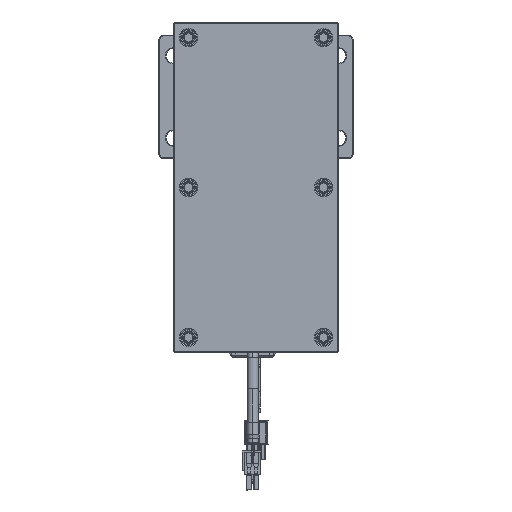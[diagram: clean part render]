
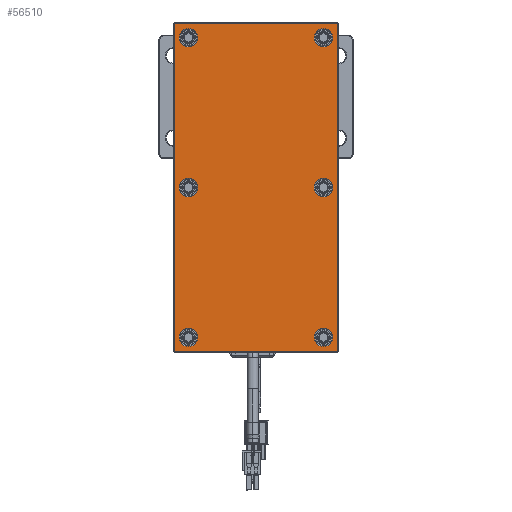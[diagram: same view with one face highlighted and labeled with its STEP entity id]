
A CAD part, front view. The second image highlights one B-rep face of the part: STEP entity #56510.
In plain terms, the highlighted planar face has unit normal (0, -1, 0).
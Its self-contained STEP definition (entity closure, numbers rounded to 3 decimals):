
#55127=CARTESIAN_POINT('',(99.,-7.,-49.));
#55128=DIRECTION('',(0.,-1.,0.));
#55129=DIRECTION('',(0.,0.,-1.));
#55130=AXIS2_PLACEMENT_3D('',#55127,#55128,#55129);
#55132=DIRECTION('',(1.,0.,0.));
#55133=VECTOR('',#55132,198.);
#55134=CARTESIAN_POINT('',(-99.,-7.,
-49.5));
#55135=LINE('',#55134,#55133);
#55136=CARTESIAN_POINT('',(-99.,-7.,-49.));
#55137=DIRECTION('',(0.,-1.,0.));
#55138=DIRECTION('',(-1.,0.,0.));
#55139=AXIS2_PLACEMENT_3D('',#55136,#55137,#55138);
#55141=DIRECTION('',(0.,0.,-1.));
#55142=VECTOR('',#55141,98.);
#55143=CARTESIAN_POINT('',(-99.5,-7.,
49.));
#55144=LINE('',#55143,#55142);
#55145=CARTESIAN_POINT('',(-99.,-7.,49.));
#55146=DIRECTION('',(0.,-1.,0.));
#55147=DIRECTION('',(0.,0.,1.));
#55148=AXIS2_PLACEMENT_3D('',#55145,#55146,#55147);
#55150=DIRECTION('',(-1.,0.,0.));
#55151=VECTOR('',#55150,198.);
#55152=CARTESIAN_POINT('',(99.,-7.,
49.5));
#55153=LINE('',#55152,#55151);
#55154=CARTESIAN_POINT('',(99.,-7.,49.));
#55155=DIRECTION('',(0.,-1.,0.));
#55156=DIRECTION('',(1.,0.,0.));
#55157=AXIS2_PLACEMENT_3D('',#55154,#55155,#55156);
#55159=DIRECTION('',(0.,0.,1.));
#55160=VECTOR('',#55159,98.);
#55161=CARTESIAN_POINT('',(99.5,-7.,
-49.));
#55162=LINE('',#55161,#55160);
#55163=CARTESIAN_POINT('',(-91.,-7.,-41.));
#55164=DIRECTION('',(0.,1.,0.));
#55165=DIRECTION('',(1.,0.,0.));
#55166=AXIS2_PLACEMENT_3D('',#55163,#55164,#55165);
#55168=CARTESIAN_POINT('',(-91.,-7.,-41.));
#55169=DIRECTION('',(0.,1.,0.));
#55170=DIRECTION('',(-1.,0.,0.));
#55171=AXIS2_PLACEMENT_3D('',#55168,#55169,#55170);
#55173=CARTESIAN_POINT('',(0.,-7.,-41.));
#55174=DIRECTION('',(0.,1.,0.));
#55175=DIRECTION('',(1.,0.,0.));
#55176=AXIS2_PLACEMENT_3D('',#55173,#55174,#55175);
#55178=CARTESIAN_POINT('',(0.,-7.,-41.));
#55179=DIRECTION('',(0.,1.,0.));
#55180=DIRECTION('',(-1.,0.,0.));
#55181=AXIS2_PLACEMENT_3D('',#55178,#55179,#55180);
#55183=CARTESIAN_POINT('',(91.,-7.,-41.));
#55184=DIRECTION('',(0.,1.,0.));
#55185=DIRECTION('',(1.,0.,0.));
#55186=AXIS2_PLACEMENT_3D('',#55183,#55184,#55185);
#55188=CARTESIAN_POINT('',(91.,-7.,-41.));
#55189=DIRECTION('',(0.,1.,0.));
#55190=DIRECTION('',(-1.,0.,0.));
#55191=AXIS2_PLACEMENT_3D('',#55188,#55189,#55190);
#55193=CARTESIAN_POINT('',(91.,-7.,41.));
#55194=DIRECTION('',(0.,1.,0.));
#55195=DIRECTION('',(1.,0.,0.));
#55196=AXIS2_PLACEMENT_3D('',#55193,#55194,#55195);
#55198=CARTESIAN_POINT('',(91.,-7.,41.));
#55199=DIRECTION('',(0.,1.,0.));
#55200=DIRECTION('',(-1.,0.,0.));
#55201=AXIS2_PLACEMENT_3D('',#55198,#55199,#55200);
#55203=CARTESIAN_POINT('',(0.,-7.,41.));
#55204=DIRECTION('',(0.,1.,0.));
#55205=DIRECTION('',(1.,0.,0.));
#55206=AXIS2_PLACEMENT_3D('',#55203,#55204,#55205);
#55208=CARTESIAN_POINT('',(0.,-7.,41.));
#55209=DIRECTION('',(0.,1.,0.));
#55210=DIRECTION('',(-1.,0.,0.));
#55211=AXIS2_PLACEMENT_3D('',#55208,#55209,#55210);
#55213=CARTESIAN_POINT('',(-91.,-7.,41.));
#55214=DIRECTION('',(0.,1.,0.));
#55215=DIRECTION('',(1.,0.,0.));
#55216=AXIS2_PLACEMENT_3D('',#55213,#55214,#55215);
#55218=CARTESIAN_POINT('',(-91.,-7.,41.));
#55219=DIRECTION('',(0.,1.,0.));
#55220=DIRECTION('',(-1.,0.,0.));
#55221=AXIS2_PLACEMENT_3D('',#55218,#55219,#55220);
#56251=CARTESIAN_POINT('',(99.,-7.,-49.5));
#56252=CARTESIAN_POINT('',(99.5,-7.,-49.));
#56253=VERTEX_POINT('',#56251);
#56254=VERTEX_POINT('',#56252);
#56259=CARTESIAN_POINT('',(99.5,-7.,
49.));
#56260=VERTEX_POINT('',#56259);
#56263=CARTESIAN_POINT('',(99.,-7.,49.5));
#56264=VERTEX_POINT('',#56263);
#56267=CARTESIAN_POINT('',(-99.,-7.,
49.5));
#56268=VERTEX_POINT('',#56267);
#56271=CARTESIAN_POINT('',(-99.5,-7.,49.));
#56272=VERTEX_POINT('',#56271);
#56275=CARTESIAN_POINT('',(-99.5,-7.,
-49.));
#56276=VERTEX_POINT('',#56275);
#56279=CARTESIAN_POINT('',(-99.,-7.,-49.5));
#56280=VERTEX_POINT('',#56279);
#56307=CARTESIAN_POINT('',(-85.45,-7.,-41.));
#56308=CARTESIAN_POINT('',(-96.55,-7.,-41.));
#56309=VERTEX_POINT('',#56307);
#56310=VERTEX_POINT('',#56308);
#56323=CARTESIAN_POINT('',(5.55,-7.,-41.));
#56324=CARTESIAN_POINT('',(-5.55,-7.,-41.));
#56325=VERTEX_POINT('',#56323);
#56326=VERTEX_POINT('',#56324);
#56347=CARTESIAN_POINT('',(96.55,-7.,-41.));
#56348=CARTESIAN_POINT('',(85.45,-7.,-41.));
#56349=VERTEX_POINT('',#56347);
#56350=VERTEX_POINT('',#56348);
#56363=CARTESIAN_POINT('',(96.55,-7.,41.));
#56364=CARTESIAN_POINT('',(85.45,-7.,41.));
#56365=VERTEX_POINT('',#56363);
#56366=VERTEX_POINT('',#56364);
#56371=CARTESIAN_POINT('',(5.55,-7.,41.));
#56372=CARTESIAN_POINT('',(-5.55,-7.,41.));
#56373=VERTEX_POINT('',#56371);
#56374=VERTEX_POINT('',#56372);
#56395=CARTESIAN_POINT('',(-85.45,-7.,41.));
#56396=CARTESIAN_POINT('',(-96.55,-7.,41.));
#56397=VERTEX_POINT('',#56395);
#56398=VERTEX_POINT('',#56396);
#56451=CARTESIAN_POINT('',(0.,-7.,0.));
#56452=DIRECTION('',(0.,1.,0.));
#56453=DIRECTION('',(1.,0.,0.));
#56454=AXIS2_PLACEMENT_3D('',#56451,#56452,#56453);
#56455=PLANE('',#56454);
#56457=ORIENTED_EDGE('',*,*,#56456,.F.);
#56459=ORIENTED_EDGE('',*,*,#56458,.F.);
#56461=ORIENTED_EDGE('',*,*,#56460,.F.);
#56463=ORIENTED_EDGE('',*,*,#56462,.F.);
#56465=ORIENTED_EDGE('',*,*,#56464,.F.);
#56467=ORIENTED_EDGE('',*,*,#56466,.F.);
#56469=ORIENTED_EDGE('',*,*,#56468,.F.);
#56471=ORIENTED_EDGE('',*,*,#56470,.F.);
#56472=EDGE_LOOP('',(#56457,#56459,#56461,#56463,#56465,#56467,#56469,#56471));
#56473=FACE_OUTER_BOUND('',#56472,.F.);
#56475=ORIENTED_EDGE('',*,*,#56474,.F.);
#56477=ORIENTED_EDGE('',*,*,#56476,.F.);
#56478=EDGE_LOOP('',(#56475,#56477));
#56479=FACE_BOUND('',#56478,.F.);
#56481=ORIENTED_EDGE('',*,*,#56480,.F.);
#56483=ORIENTED_EDGE('',*,*,#56482,.F.);
#56484=EDGE_LOOP('',(#56481,#56483));
#56485=FACE_BOUND('',#56484,.F.);
#56487=ORIENTED_EDGE('',*,*,#56486,.F.);
#56489=ORIENTED_EDGE('',*,*,#56488,.F.);
#56490=EDGE_LOOP('',(#56487,#56489));
#56491=FACE_BOUND('',#56490,.F.);
#56493=ORIENTED_EDGE('',*,*,#56492,.F.);
#56495=ORIENTED_EDGE('',*,*,#56494,.F.);
#56496=EDGE_LOOP('',(#56493,#56495));
#56497=FACE_BOUND('',#56496,.F.);
#56499=ORIENTED_EDGE('',*,*,#56498,.F.);
#56501=ORIENTED_EDGE('',*,*,#56500,.F.);
#56502=EDGE_LOOP('',(#56499,#56501));
#56503=FACE_BOUND('',#56502,.F.);
#56505=ORIENTED_EDGE('',*,*,#56504,.F.);
#56507=ORIENTED_EDGE('',*,*,#56506,.F.);
#56508=EDGE_LOOP('',(#56505,#56507));
#56509=FACE_BOUND('',#56508,.F.);
#56510=ADVANCED_FACE('',(#56473,#56479,#56485,#56491,#56497,#56503,#56509),
#56455,.F.);
#55131=CIRCLE('',#55130,0.5);
#55140=CIRCLE('',#55139,0.5);
#55149=CIRCLE('',#55148,0.5);
#55158=CIRCLE('',#55157,0.5);
#55167=CIRCLE('',#55166,5.55);
#55172=CIRCLE('',#55171,5.55);
#55177=CIRCLE('',#55176,5.55);
#55182=CIRCLE('',#55181,5.55);
#55187=CIRCLE('',#55186,5.55);
#55192=CIRCLE('',#55191,5.55);
#55197=CIRCLE('',#55196,5.55);
#55202=CIRCLE('',#55201,5.55);
#55207=CIRCLE('',#55206,5.55);
#55212=CIRCLE('',#55211,5.55);
#55217=CIRCLE('',#55216,5.55);
#55222=CIRCLE('',#55221,5.55);
#56456=EDGE_CURVE('',#56253,#56254,#55131,.T.);
#56458=EDGE_CURVE('',#56280,#56253,#55135,.T.);
#56460=EDGE_CURVE('',#56276,#56280,#55140,.T.);
#56462=EDGE_CURVE('',#56272,#56276,#55144,.T.);
#56464=EDGE_CURVE('',#56268,#56272,#55149,.T.);
#56466=EDGE_CURVE('',#56264,#56268,#55153,.T.);
#56468=EDGE_CURVE('',#56260,#56264,#55158,.T.);
#56470=EDGE_CURVE('',#56254,#56260,#55162,.T.);
#56474=EDGE_CURVE('',#56309,#56310,#55167,.T.);
#56476=EDGE_CURVE('',#56310,#56309,#55172,.T.);
#56480=EDGE_CURVE('',#56325,#56326,#55177,.T.);
#56482=EDGE_CURVE('',#56326,#56325,#55182,.T.);
#56486=EDGE_CURVE('',#56349,#56350,#55187,.T.);
#56488=EDGE_CURVE('',#56350,#56349,#55192,.T.);
#56492=EDGE_CURVE('',#56365,#56366,#55197,.T.);
#56494=EDGE_CURVE('',#56366,#56365,#55202,.T.);
#56498=EDGE_CURVE('',#56373,#56374,#55207,.T.);
#56500=EDGE_CURVE('',#56374,#56373,#55212,.T.);
#56504=EDGE_CURVE('',#56397,#56398,#55217,.T.);
#56506=EDGE_CURVE('',#56398,#56397,#55222,.T.);
